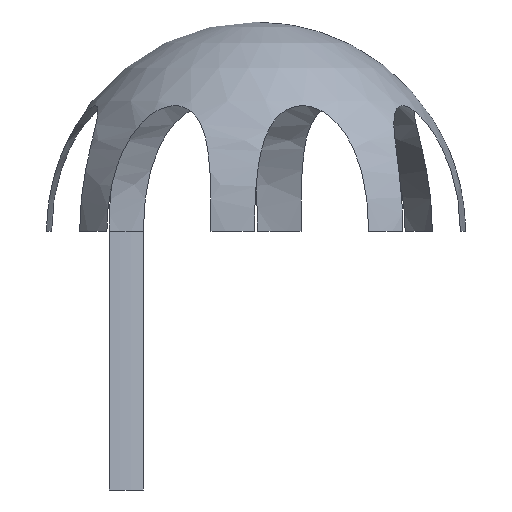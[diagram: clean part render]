
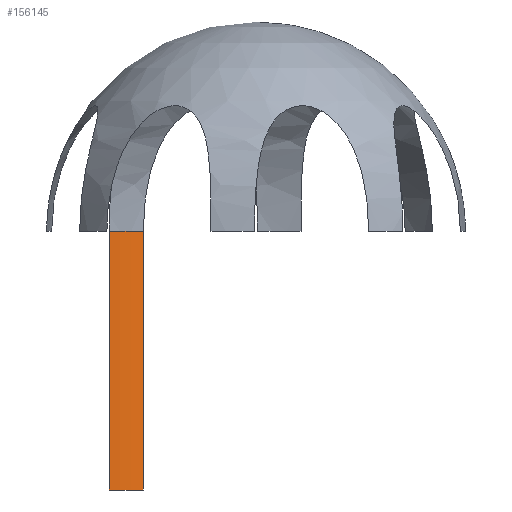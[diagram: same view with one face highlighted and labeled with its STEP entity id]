
A CAD part, front view. The second image highlights one B-rep face of the part: STEP entity #156145.
In plain terms, the highlighted cylindrical face has radius 17 mm (diameter 34 mm), a partial arc.
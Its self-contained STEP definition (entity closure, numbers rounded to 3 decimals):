
#9826=CYLINDRICAL_SURFACE('',#182415,17.);
#13595=LINE('',#341492,#17949);
#13618=LINE('',#342280,#17972);
#17949=VECTOR('',#236739,10.);
#17972=VECTOR('',#236990,10.);
#31317=FACE_OUTER_BOUND('',#43576,.T.);
#43576=EDGE_LOOP('',(#137886,#137887,#137888,#137889));
#60095=CIRCLE('',#182416,17.);
#60096=CIRCLE('',#182417,17.);
#72815=VERTEX_POINT('',#341446);
#72819=VERTEX_POINT('',#341488);
#72866=VERTEX_POINT('',#342244);
#72869=VERTEX_POINT('',#342278);
#94628=EDGE_CURVE('',#72815,#72819,#13595,.T.);
#94730=EDGE_CURVE('',#72869,#72866,#13618,.T.);
#94738=EDGE_CURVE('',#72866,#72815,#60095,.T.);
#94739=EDGE_CURVE('',#72819,#72869,#60096,.T.);
#137886=ORIENTED_EDGE('',*,*,#94628,.F.);
#137887=ORIENTED_EDGE('',*,*,#94738,.F.);
#137888=ORIENTED_EDGE('',*,*,#94730,.F.);
#137889=ORIENTED_EDGE('',*,*,#94739,.F.);
#156145=ADVANCED_FACE('',(#31317),#9826,.T.);
#182415=AXIS2_PLACEMENT_3D('',#342293,#237011,#237012);
#182416=AXIS2_PLACEMENT_3D('',#342294,#237013,#237014);
#182417=AXIS2_PLACEMENT_3D('',#342295,#237015,#237016);
#236739=DIRECTION('',(0.,0.,-1.));
#236990=DIRECTION('',(0.,0.,1.));
#237011=DIRECTION('center_axis',(0.,0.,1.));
#237012=DIRECTION('ref_axis',(-1.,0.,0.));
#237013=DIRECTION('center_axis',(0.,0.,1.));
#237014=DIRECTION('ref_axis',(-1.,0.,0.));
#237015=DIRECTION('center_axis',(0.,0.,-1.));
#237016=DIRECTION('ref_axis',(-1.,0.,0.));
#341446=CARTESIAN_POINT('',(-22.345,12.724,23.));
#341488=CARTESIAN_POINT('',(-22.345,12.724,2.));
#341492=CARTESIAN_POINT('',(-22.345,12.724,0.));
#342244=CARTESIAN_POINT('',(-19.566,14.94,23.));
#342278=CARTESIAN_POINT('',(-19.566,14.94,2.));
#342280=CARTESIAN_POINT('',(-19.566,14.94,0.));
#342293=CARTESIAN_POINT('Origin',(-10.412,0.616,0.));
#342294=CARTESIAN_POINT('Origin',(-10.412,0.616,23.));
#342295=CARTESIAN_POINT('Origin',(-10.412,0.616,2.));
